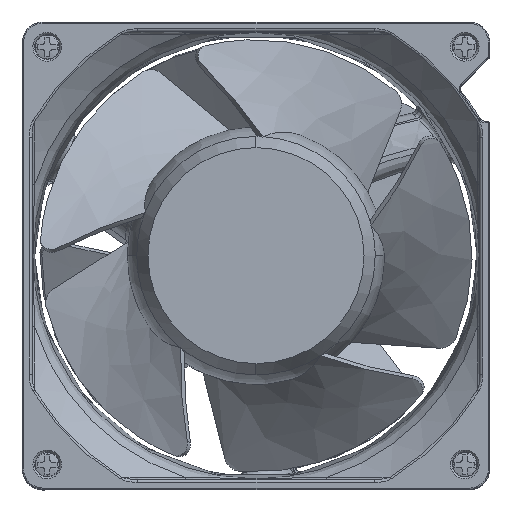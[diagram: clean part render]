
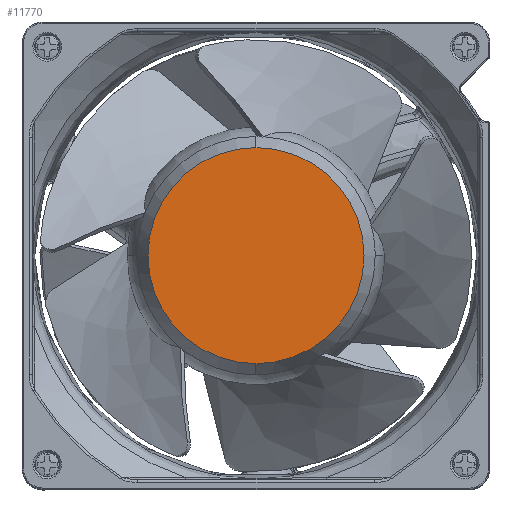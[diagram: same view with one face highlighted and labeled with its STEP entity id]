
A CAD part, top view. The second image highlights one B-rep face of the part: STEP entity #11770.
In plain terms, the highlighted planar face has unit normal (0, 0, 1).
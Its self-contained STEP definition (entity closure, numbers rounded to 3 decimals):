
#470 = CARTESIAN_POINT ( 'NONE',  ( 0., 0., 37. ) ) ;
#1876 = VERTEX_POINT ( 'NONE', #59685 ) ;
#2653 = ORIENTED_EDGE ( 'NONE', *, *, #57284, .F. ) ;
#3183 = DIRECTION ( 'NONE',  ( 0., 1., 0. ) ) ;
#5362 = CARTESIAN_POINT ( 'NONE',  ( 0., 0., 37. ) ) ;
#9805 = DIRECTION ( 'NONE',  ( 0., -1., 0. ) ) ;
#10026 = DIRECTION ( 'NONE',  ( 0., 1., 0. ) ) ;
#10524 = CIRCLE ( 'NONE', #46257, 18.5 ) ;
#11770 = ADVANCED_FACE ( 'NONE', ( #39309 ), #32994, .T. ) ;
#24012 = AXIS2_PLACEMENT_3D ( 'NONE', #470, #37660, #9805 ) ;
#24137 = AXIS2_PLACEMENT_3D ( 'NONE', #5362, #37875, #10026 ) ;
#26914 = EDGE_CURVE ( 'NONE', #38254, #1876, #10524, .T. ) ;
#27532 = CARTESIAN_POINT ( 'NONE',  ( 0., -18.5, 37. ) ) ;
#31027 = DIRECTION ( 'NONE',  ( 0., 0., -1. ) ) ;
#32994 = PLANE ( 'NONE',  #24012 ) ;
#37123 = CIRCLE ( 'NONE', #24137, 18.5 ) ;
#37524 = EDGE_LOOP ( 'NONE', ( #2653, #55285 ) ) ;
#37660 = DIRECTION ( 'NONE',  ( 0., 0., 1. ) ) ;
#37875 = DIRECTION ( 'NONE',  ( 0., 0., -1. ) ) ;
#38254 = VERTEX_POINT ( 'NONE', #27532 ) ;
#39309 = FACE_OUTER_BOUND ( 'NONE', #37524, .T. ) ;
#46257 = AXIS2_PLACEMENT_3D ( 'NONE', #58835, #31027, #3183 ) ;
#55285 = ORIENTED_EDGE ( 'NONE', *, *, #26914, .F. ) ;
#57284 = EDGE_CURVE ( 'NONE', #1876, #38254, #37123, .T. ) ;
#58835 = CARTESIAN_POINT ( 'NONE',  ( 0., 0., 37. ) ) ;
#59685 = CARTESIAN_POINT ( 'NONE',  ( 0., 18.5, 37. ) ) ;
